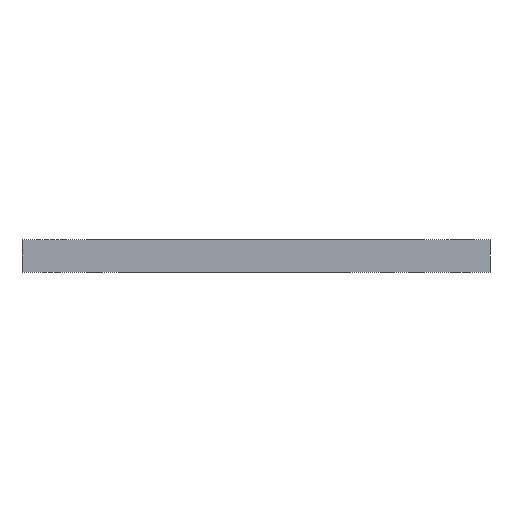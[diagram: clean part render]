
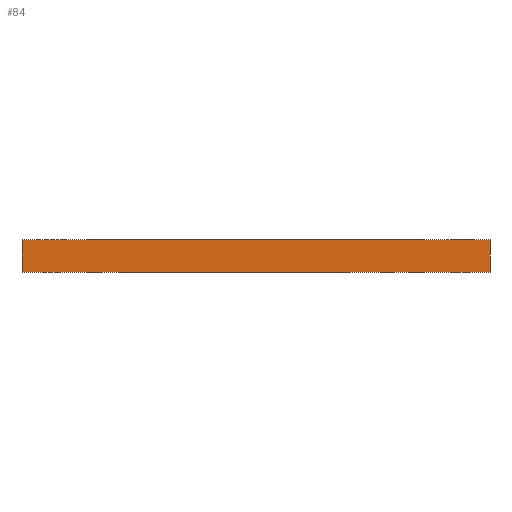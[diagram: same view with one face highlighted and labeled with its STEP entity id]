
A CAD part, front view. The second image highlights one B-rep face of the part: STEP entity #84.
In plain terms, the highlighted planar face has unit normal (0, -1, 0).
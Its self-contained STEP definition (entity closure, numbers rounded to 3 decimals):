
#84=ADVANCED_FACE('',(#308),#307,.T.);
#307=PLANE('',#1253);
#308=FACE_OUTER_BOUND('',#1254,.T.);
#1250=CARTESIAN_POINT('',(-90.,-80.,1.1));
#1251=DIRECTION('',(0.,-1.,0.));
#1252=DIRECTION('',(0.,0.,-1.));
#1253=AXIS2_PLACEMENT_3D('',#1250,#1251,#1252);
#1254=EDGE_LOOP('',(#1904,#1905,#1906,#1907));
#1904=ORIENTED_EDGE('',*,*,#2251,.F.);
#1905=ORIENTED_EDGE('',*,*,#2380,.F.);
#1906=ORIENTED_EDGE('',*,*,#2325,.T.);
#1907=ORIENTED_EDGE('',*,*,#2378,.T.);
#2251=EDGE_CURVE('',#2496,#2503,#2504,.T.);
#2325=EDGE_CURVE('',#3021,#3014,#3022,.T.);
#2378=EDGE_CURVE('',#3014,#2503,#3391,.T.);
#2380=EDGE_CURVE('',#3021,#2496,#3403,.T.);
#2496=VERTEX_POINT('',#4084);
#2503=VERTEX_POINT('',#4088);
#2504=LINE('',#4089,#4090);
#3014=VERTEX_POINT('',#4450);
#3021=VERTEX_POINT('',#4454);
#3022=LINE('',#4455,#4456);
#3391=LINE('',#4718,#4719);
#3403=LINE('',#4724,#4725);
#4084=CARTESIAN_POINT('',(-80.,-80.,0.));
#4088=CARTESIAN_POINT('',(80.,-80.,0.));
#4089=CARTESIAN_POINT('',(-80.,-80.,0.));
#4090=VECTOR('',#4091,160.);
#4091=DIRECTION('',(1.,0.,0.));
#4450=CARTESIAN_POINT('',(80.,-80.,-11.));
#4454=CARTESIAN_POINT('',(-80.,-80.,-11.));
#4455=CARTESIAN_POINT('',(-80.,-80.,-11.));
#4456=VECTOR('',#4457,160.);
#4457=DIRECTION('',(1.,0.,0.));
#4718=CARTESIAN_POINT('',(80.,-80.,-11.));
#4719=VECTOR('',#4720,11.);
#4720=DIRECTION('',(0.,0.,1.));
#4724=CARTESIAN_POINT('',(-80.,-80.,-11.));
#4725=VECTOR('',#4726,11.);
#4726=DIRECTION('',(0.,0.,1.));
